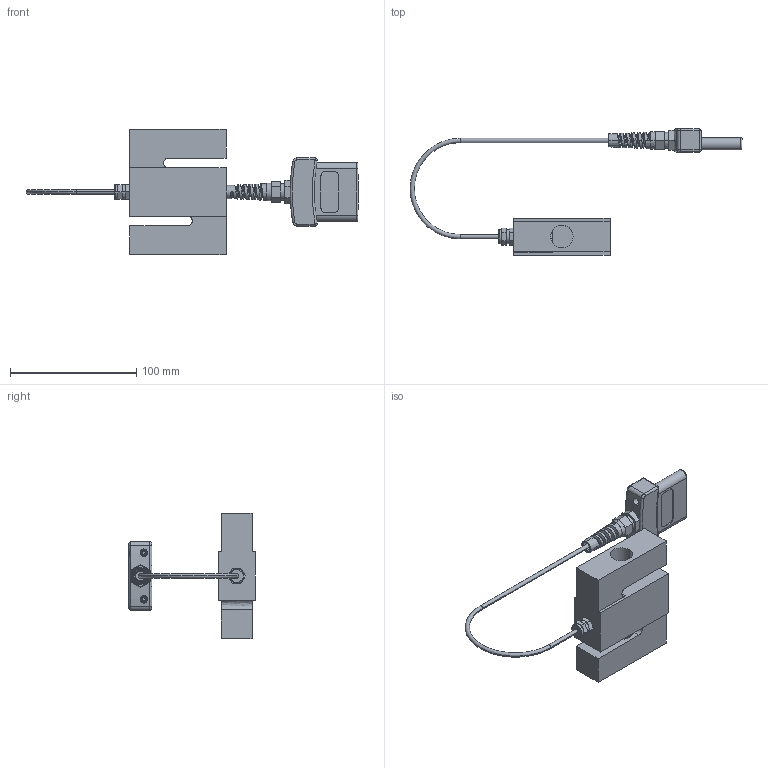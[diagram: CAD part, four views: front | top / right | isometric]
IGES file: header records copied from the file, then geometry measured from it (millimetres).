
Global section: file name: No Iges File Name specified; native system: Autodesk Inventor 2010; preprocessor: AutoDesk Inventor Iges Exporter R2010; author: mlampen; date: 20170620.150454; units: inch
Bounding box: 262.98 x 99.95 x 99.06 mm (x, y, z)
Volume: 208367.5 mm3; surface area: 46940.1 mm2
Topology: 4 solids, 4 shells, 429 faces, 1143 edges, 742 vertices
Faces by surface type: plane 141, bspline 89, revolution 85, cylinder 67, cone 27, torus 16, sphere 4
Full cylindrical faces by diameter (mm): 2.02 x13, 2.845 x13
